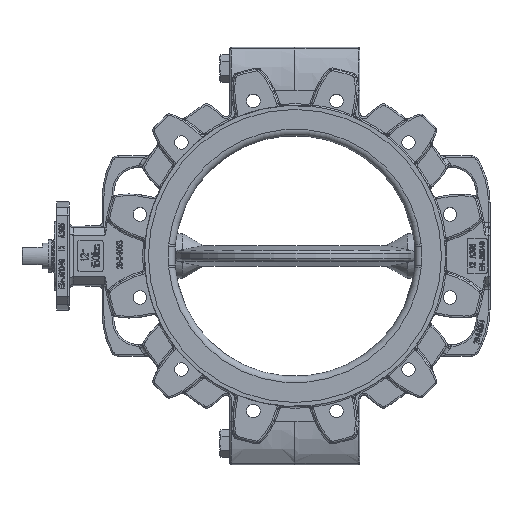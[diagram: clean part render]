
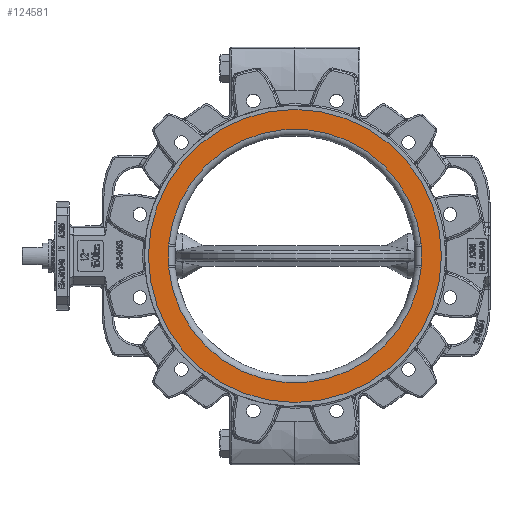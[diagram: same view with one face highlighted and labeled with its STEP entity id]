
A CAD part, top view. The second image highlights one B-rep face of the part: STEP entity #124581.
In plain terms, the highlighted planar face has unit normal (0, 0, 1).
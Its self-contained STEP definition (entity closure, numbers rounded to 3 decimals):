
#42417=CARTESIAN_POINT('',(-157.281,-15.057,
39.));
#42418=CARTESIAN_POINT('',(-157.316,-14.695,
39.));
#42419=CARTESIAN_POINT('',(-157.373,-13.962,
39.));
#42420=CARTESIAN_POINT('',(-157.425,-12.83,
39.));
#42421=CARTESIAN_POINT('',(-157.436,-12.055,
39.));
#42422=CARTESIAN_POINT('',(-157.436,-11.662,
39.));
#42436=CARTESIAN_POINT('',(0.,0.,39.));
#42437=DIRECTION('',(0.,0.,-1.));
#42438=DIRECTION('',(0.,-1.,0.));
#42439=AXIS2_PLACEMENT_3D('',#42436,#42437,#42438);
#42445=CARTESIAN_POINT('',(0.,0.,39.));
#42446=DIRECTION('',(0.,0.,1.));
#42447=DIRECTION('',(0.,-1.,0.));
#42448=AXIS2_PLACEMENT_3D('',#42445,#42446,#42447);
#42454=CARTESIAN_POINT('',(0.,0.,39.));
#42455=DIRECTION('',(0.,0.,-1.));
#42456=DIRECTION('',(0.995,-0.095,0.));
#42457=AXIS2_PLACEMENT_3D('',#42454,#42455,#42456);
#42464=CARTESIAN_POINT('',(157.281,-15.057,
39.));
#42465=CARTESIAN_POINT('',(157.316,-14.695,
39.));
#42466=CARTESIAN_POINT('',(157.373,-13.962,
39.));
#42467=CARTESIAN_POINT('',(157.425,-12.83,
39.));
#42468=CARTESIAN_POINT('',(157.436,-12.055,
39.));
#42469=CARTESIAN_POINT('',(157.436,-11.662,
39.));
#42833=DIRECTION('',(0.,1.,0.));
#42834=VECTOR('',#42833,23.323);
#42835=CARTESIAN_POINT('',(-157.436,-11.662,
39.));
#42836=LINE('',#42835,#42834);
#42846=CARTESIAN_POINT('',(-157.436,11.662,
39.));
#42847=CARTESIAN_POINT('',(-157.436,12.054,
39.));
#42848=CARTESIAN_POINT('',(-157.425,12.83,
39.));
#42849=CARTESIAN_POINT('',(-157.373,13.962,
39.));
#42850=CARTESIAN_POINT('',(-157.316,14.695,
39.));
#42851=CARTESIAN_POINT('',(-157.281,15.057,
39.));
#42875=CARTESIAN_POINT('',(0.,0.,39.));
#42876=DIRECTION('',(0.,0.,-1.));
#42877=DIRECTION('',(-0.995,0.095,0.));
#42878=AXIS2_PLACEMENT_3D('',#42875,#42876,#42877);
#42885=CARTESIAN_POINT('',(157.436,11.662,39.));
#42886=CARTESIAN_POINT('',(157.436,12.054,39.));
#42887=CARTESIAN_POINT('',(157.425,12.83,39.));
#42888=CARTESIAN_POINT('',(157.373,13.962,39.));
#42889=CARTESIAN_POINT('',(157.316,14.695,39.));
#42890=CARTESIAN_POINT('',(157.281,15.057,39.));
#42904=DIRECTION('',(0.,1.,0.));
#42905=VECTOR('',#42904,23.323);
#42906=CARTESIAN_POINT('',(157.436,-11.662,
39.));
#42907=LINE('',#42906,#42905);
#58655=CARTESIAN_POINT('',(0.,-182.5,39.));
#58656=CARTESIAN_POINT('',(0.,182.5,39.));
#58657=VERTEX_POINT('',#58655);
#58658=VERTEX_POINT('',#58656);
#58663=VERTEX_POINT('',#42417);
#58664=VERTEX_POINT('',#42422);
#58667=CARTESIAN_POINT('',(-157.436,11.662,
39.));
#58668=VERTEX_POINT('',#58667);
#58671=VERTEX_POINT('',#42851);
#58683=VERTEX_POINT('',#42464);
#58684=VERTEX_POINT('',#42469);
#58687=CARTESIAN_POINT('',(157.436,11.662,39.));
#58688=VERTEX_POINT('',#58687);
#58691=VERTEX_POINT('',#42890);
#124553=CARTESIAN_POINT('',(0.,0.,39.));
#124554=DIRECTION('',(0.,0.,-1.));
#124555=DIRECTION('',(0.,-1.,0.));
#124556=AXIS2_PLACEMENT_3D('',#124553,#124554,#124555);
#124557=PLANE('',#124556);
#124559=ORIENTED_EDGE('',*,*,#124558,.T.);
#124561=ORIENTED_EDGE('',*,*,#124560,.F.);
#124562=EDGE_LOOP('',(#124559,#124561));
#124563=FACE_OUTER_BOUND('',#124562,.F.);
#124565=ORIENTED_EDGE('',*,*,#124564,.F.);
#124567=ORIENTED_EDGE('',*,*,#124566,.T.);
#124569=ORIENTED_EDGE('',*,*,#124568,.T.);
#124571=ORIENTED_EDGE('',*,*,#124570,.T.);
#124573=ORIENTED_EDGE('',*,*,#124572,.F.);
#124575=ORIENTED_EDGE('',*,*,#124574,.F.);
#124577=ORIENTED_EDGE('',*,*,#124576,.F.);
#124578=ORIENTED_EDGE('',*,*,#124543,.F.);
#124579=EDGE_LOOP('',(#124565,#124567,#124569,#124571,#124573,#124575,#124577,
#124578));
#124580=FACE_BOUND('',#124579,.F.);
#124581=ADVANCED_FACE('',(#124563,#124580),#124557,.F.);
#42423=B_SPLINE_CURVE_WITH_KNOTS('',3,(#42417,#42418,#42419,#42420,#42421,
#42422),.UNSPECIFIED.,.F.,.F.,(4,1,1,4),(0.,0.333,
0.667,1.),.UNSPECIFIED.);
#42440=CIRCLE('',#42439,182.5);
#42449=CIRCLE('',#42448,182.5);
#42458=CIRCLE('',#42457,158.);
#42470=B_SPLINE_CURVE_WITH_KNOTS('',3,(#42464,#42465,#42466,#42467,#42468,
#42469),.UNSPECIFIED.,.F.,.F.,(4,1,1,4),(0.,0.333,
0.667,1.),.UNSPECIFIED.);
#42852=B_SPLINE_CURVE_WITH_KNOTS('',3,(#42846,#42847,#42848,#42849,#42850,
#42851),.UNSPECIFIED.,.F.,.F.,(4,1,1,4),(0.,0.333,
0.667,1.),.UNSPECIFIED.);
#42879=CIRCLE('',#42878,158.);
#42891=B_SPLINE_CURVE_WITH_KNOTS('',3,(#42885,#42886,#42887,#42888,#42889,
#42890),.UNSPECIFIED.,.F.,.F.,(4,1,1,4),(0.,0.333,
0.667,1.),.UNSPECIFIED.);
#124543=EDGE_CURVE('',#58663,#58664,#42423,.T.);
#124558=EDGE_CURVE('',#58657,#58658,#42440,.T.);
#124560=EDGE_CURVE('',#58657,#58658,#42449,.T.);
#124564=EDGE_CURVE('',#58683,#58663,#42458,.T.);
#124566=EDGE_CURVE('',#58683,#58684,#42470,.T.);
#124568=EDGE_CURVE('',#58684,#58688,#42907,.T.);
#124570=EDGE_CURVE('',#58688,#58691,#42891,.T.);
#124572=EDGE_CURVE('',#58671,#58691,#42879,.T.);
#124574=EDGE_CURVE('',#58668,#58671,#42852,.T.);
#124576=EDGE_CURVE('',#58664,#58668,#42836,.T.);
